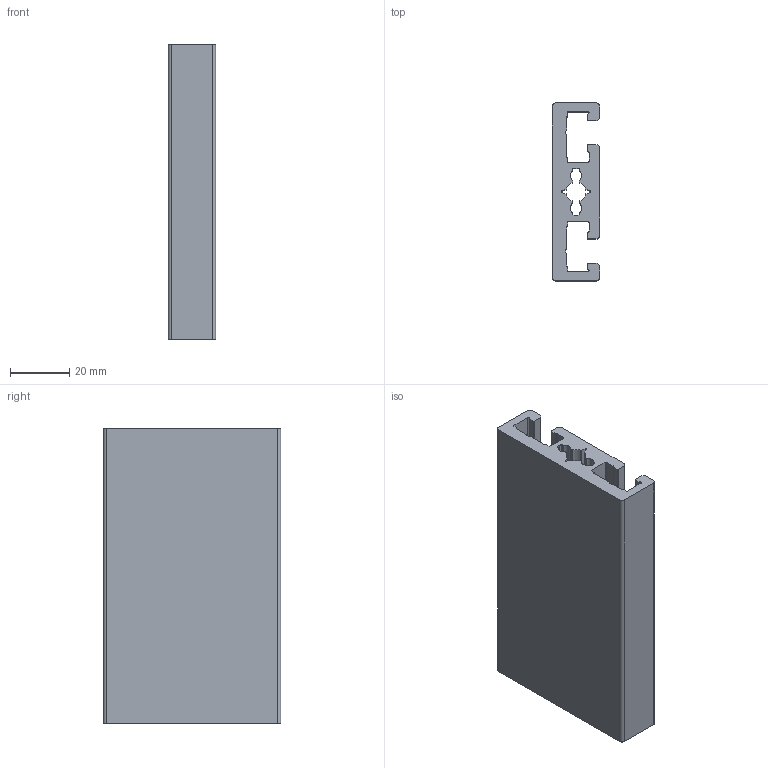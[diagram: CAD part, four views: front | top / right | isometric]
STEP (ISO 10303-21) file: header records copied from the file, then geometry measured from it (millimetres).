
FILE_DESCRIPTION (( 'STEP AP214' ), '1' );
FILE_NAME ('709101 60x16.STEP', '2021-05-31T14:58:34', ( '' ), ( '' ), 'SwSTEP 2.0', 'SolidWorks 2020', '' );
FILE_SCHEMA (( 'AUTOMOTIVE_DESIGN' ));
Length unit declared in the file: millimetre
Products named in the file (1): 709101 60x16
Bounding box: 16 x 60 x 100 mm (x, y, z)
Volume: 57501.2 mm3; surface area: 28716.5 mm2
Topology: 1 solids, 1 shells, 119 faces, 351 edges, 234 vertices
Faces by surface type: cylinder 73, plane 46
Entity records: 4069 total; most frequent: DIRECTION 737, CARTESIAN_POINT 705, ORIENTED_EDGE 702, EDGE_CURVE 351, AXIS2_PLACEMENT_3D 266, VERTEX_POINT 234, LINE 205, VECTOR 205
